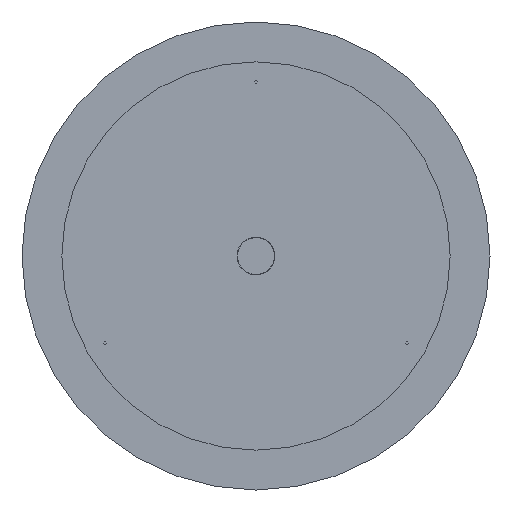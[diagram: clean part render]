
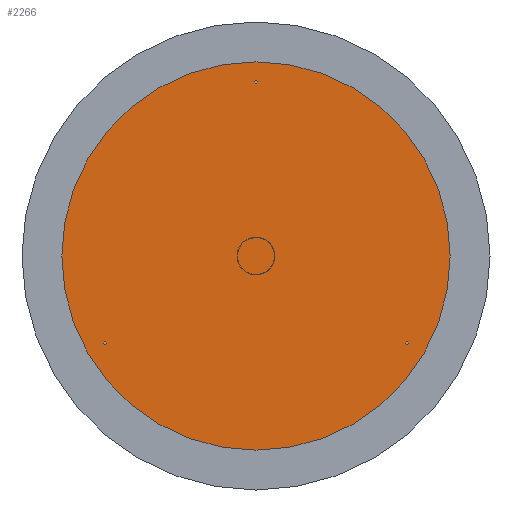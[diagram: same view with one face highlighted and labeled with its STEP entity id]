
A CAD part, front view. The second image highlights one B-rep face of the part: STEP entity #2266.
In plain terms, the highlighted planar face has unit normal (0, -1, 0).
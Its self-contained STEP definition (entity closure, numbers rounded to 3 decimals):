
#67=FACE_BOUND('',#590,.T.);
#68=FACE_BOUND('',#591,.T.);
#69=FACE_BOUND('',#592,.T.);
#444=FACE_OUTER_BOUND('',#589,.T.);
#589=EDGE_LOOP('',(#1656,#1657));
#590=EDGE_LOOP('',(#1658,#1659));
#591=EDGE_LOOP('',(#1660,#1661));
#592=EDGE_LOOP('',(#1662,#1663));
#762=CIRCLE('',#2506,1.621);
#763=CIRCLE('',#2507,1.621);
#765=CIRCLE('',#2510,1.621);
#766=CIRCLE('',#2511,1.621);
#768=CIRCLE('',#2514,1.621);
#769=CIRCLE('',#2515,1.621);
#771=CIRCLE('',#2518,195.);
#772=CIRCLE('',#2519,195.);
#948=VERTEX_POINT('',#3856);
#949=VERTEX_POINT('',#3857);
#951=VERTEX_POINT('',#3864);
#952=VERTEX_POINT('',#3865);
#954=VERTEX_POINT('',#3872);
#955=VERTEX_POINT('',#3873);
#957=VERTEX_POINT('',#3880);
#958=VERTEX_POINT('',#3881);
#1196=EDGE_CURVE('',#948,#949,#762,.T.);
#1197=EDGE_CURVE('',#949,#948,#763,.T.);
#1200=EDGE_CURVE('',#951,#952,#765,.T.);
#1201=EDGE_CURVE('',#952,#951,#766,.T.);
#1204=EDGE_CURVE('',#954,#955,#768,.T.);
#1205=EDGE_CURVE('',#955,#954,#769,.T.);
#1208=EDGE_CURVE('',#957,#958,#771,.T.);
#1209=EDGE_CURVE('',#958,#957,#772,.T.);
#1656=ORIENTED_EDGE('',*,*,#1208,.T.);
#1657=ORIENTED_EDGE('',*,*,#1209,.T.);
#1658=ORIENTED_EDGE('',*,*,#1196,.T.);
#1659=ORIENTED_EDGE('',*,*,#1197,.T.);
#1660=ORIENTED_EDGE('',*,*,#1200,.T.);
#1661=ORIENTED_EDGE('',*,*,#1201,.T.);
#1662=ORIENTED_EDGE('',*,*,#1204,.T.);
#1663=ORIENTED_EDGE('',*,*,#1205,.T.);
#2042=PLANE('',#2522);
#2266=ADVANCED_FACE('',(#444,#67,#68,#69),#2042,.T.);
#2506=AXIS2_PLACEMENT_3D('',#3858,#2975,#2976);
#2507=AXIS2_PLACEMENT_3D('',#3859,#2977,#2978);
#2510=AXIS2_PLACEMENT_3D('',#3866,#2984,#2985);
#2511=AXIS2_PLACEMENT_3D('',#3867,#2986,#2987);
#2514=AXIS2_PLACEMENT_3D('',#3874,#2993,#2994);
#2515=AXIS2_PLACEMENT_3D('',#3875,#2995,#2996);
#2518=AXIS2_PLACEMENT_3D('',#3882,#3002,#3003);
#2519=AXIS2_PLACEMENT_3D('',#3883,#3004,#3005);
#2522=AXIS2_PLACEMENT_3D('',#3889,#3011,#3012);
#2975=DIRECTION('center_axis',(0.,1.,0.));
#2976=DIRECTION('ref_axis',(1.,0.,0.));
#2977=DIRECTION('center_axis',(0.,1.,0.));
#2978=DIRECTION('ref_axis',(1.,0.,0.));
#2984=DIRECTION('center_axis',(0.,1.,0.));
#2985=DIRECTION('ref_axis',(1.,0.,0.));
#2986=DIRECTION('center_axis',(0.,1.,0.));
#2987=DIRECTION('ref_axis',(1.,0.,0.));
#2993=DIRECTION('center_axis',(0.,1.,0.));
#2994=DIRECTION('ref_axis',(1.,0.,0.));
#2995=DIRECTION('center_axis',(0.,1.,0.));
#2996=DIRECTION('ref_axis',(1.,0.,0.));
#3002=DIRECTION('center_axis',(0.,-1.,0.));
#3003=DIRECTION('ref_axis',(1.,0.,0.));
#3004=DIRECTION('center_axis',(0.,-1.,0.));
#3005=DIRECTION('ref_axis',(1.,0.,0.));
#3011=DIRECTION('center_axis',(0.,-1.,0.));
#3012=DIRECTION('ref_axis',(1.,0.,0.));
#3856=CARTESIAN_POINT('',(153.175,-6.,-87.5));
#3857=CARTESIAN_POINT('',(149.933,-6.,-87.5));
#3858=CARTESIAN_POINT('Origin',(151.554,-6.,-87.5));
#3859=CARTESIAN_POINT('Origin',(151.554,-6.,-87.5));
#3864=CARTESIAN_POINT('',(-149.933,-6.,-87.5));
#3865=CARTESIAN_POINT('',(-153.175,-6.,-87.5));
#3866=CARTESIAN_POINT('Origin',(-151.554,-6.,-87.5));
#3867=CARTESIAN_POINT('Origin',(-151.554,-6.,-87.5));
#3872=CARTESIAN_POINT('',(1.621,-6.,175.));
#3873=CARTESIAN_POINT('',(-1.621,-6.,175.));
#3874=CARTESIAN_POINT('Origin',(0.,-6.,
175.));
#3875=CARTESIAN_POINT('Origin',(0.,-6.,
175.));
#3880=CARTESIAN_POINT('',(195.,-6.,0.));
#3881=CARTESIAN_POINT('',(-195.,-6.,0.));
#3882=CARTESIAN_POINT('Origin',(0.,-6.,
0.));
#3883=CARTESIAN_POINT('Origin',(0.,-6.,
0.));
#3889=CARTESIAN_POINT('Origin',(0.,-6.,
0.));
